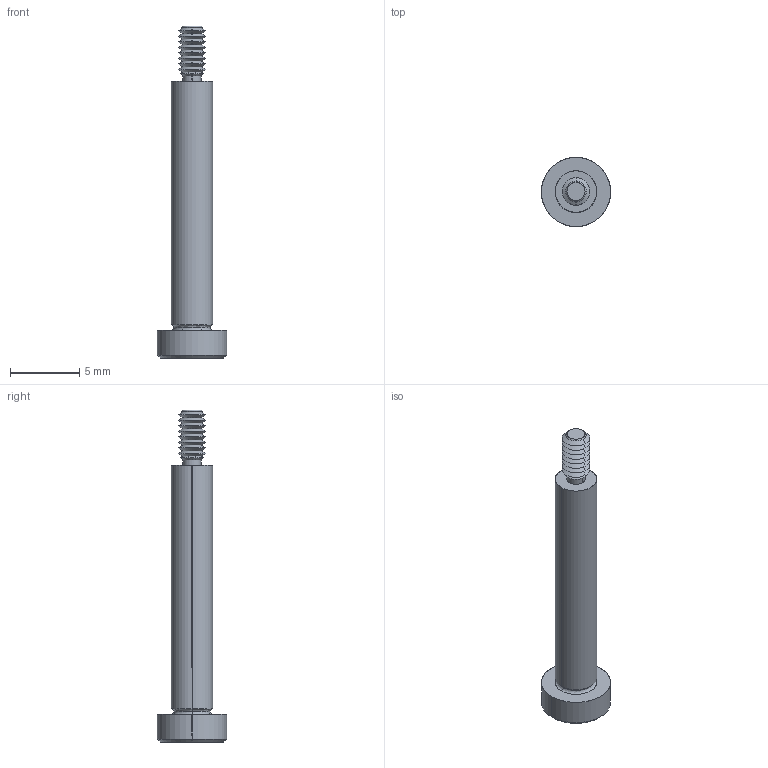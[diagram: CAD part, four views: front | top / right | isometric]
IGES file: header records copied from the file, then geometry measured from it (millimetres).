
Start section: SolidWorks IGES file using analytic representation for surfaces
Global section: file name: C:\Users\IanO\Documents\Temp Folder\GENERAL\SCREW REVISION\P0130_v2\P0130.T5_v2_20220106_IGES\P0130.030-018-T5.igs; native system: SolidWorks 2019; preprocessor: SolidWorks 2019; author: IanO; date: 220106.220233; units: millimetre
Bounding box: 5 x 5 x 24 mm (x, y, z)
Surface area: 285.9 mm2 (no closed solid volume)
Topology: 0 solids, 0 shells, 76 faces, 508 edges, 506 vertices
Faces by surface type: revolution 56, bspline 20
